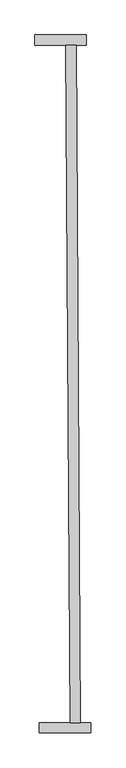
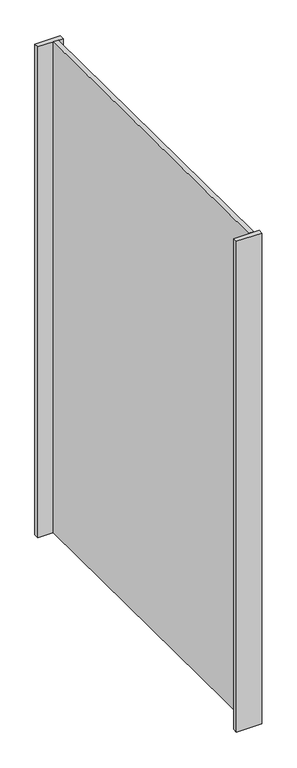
"""IFC4 building model written with IfcOpenShell, lengths in millimetres: proxy geometry, CAIXA JARDIM VERTICAL 3 : CAIXA JARDIM VERTICAL 1."""

from ifc_helpers import new_model, si_unit, origin, origin_with_axes, place, context, project, spatial, polyline, outline, extrude, source, transform, mapped, element, save


def generic_models_123b7c30(model_context):
    return source(origin(), model_context, "Body", "SweptSolid", [
        extrude(outline(polyline([(-4372.7882401, -2024.7582162), (-4402.7882401, -2024.7582162), (-4415.309031, -54.7582162), (-4385.309031, -54.7582162), (-4372.7882401, -2024.7582162)])), origin_with_axes(), (0.0, 0.0, 1.0), 3050.0),
        extrude(outline(polyline([(-4342.7882401, -2024.7582162), (-4342.7882401, -2054.7582162), (-4492.7882401, -2054.7582162), (-4492.7882401, -2024.7582162), (-4342.7882401, -2024.7582162)])), origin_with_axes(), (0.0, 0.0, 1.0), 3050.0),
        extrude(outline(polyline([(-4355.309031, -24.7582162), (-4355.309031, -54.7582162), (-4505.309031, -54.7582162), (-4505.309031, -24.7582162), (-4355.309031, -24.7582162)])), origin_with_axes(), (0.0, 0.0, 1.0), 3050.0),
    ])


if __name__ == "__main__":
    model = new_model("IFC4")
    model_context = context("Model", 3, world=origin())
    ifc_project = project(units=[si_unit("LENGTHUNIT", "METRE", prefix="MILLI")], contexts=[model_context])
    site = spatial("IfcSite", under=ifc_project)
    building = spatial("IfcBuilding", under=site)
    placement = place(None, origin())
    generic_models_shape = generic_models_123b7c30(model_context)
    element("IfcBuildingElementProxy", 1, Name="CAIXA JARDIM VERTICAL 3 : CAIXA JARDIM VERTICAL 1", ObjectType="CAIXA JARDIM VERTICAL 3 : CAIXA JARDIM VERTICAL 1", at=placement, inside=building, context=model_context, shape_type="MappedRepresentation", body=[
        mapped(generic_models_shape, transform((0.0, 0.0, 0.0), x_axis=(1.0, 0.0, 0.0), y_axis=(0.0, 1.0, 0.0), z_axis=(0.0, 0.0, 1.0))),
    ])
    save(model, "model.ifc")
